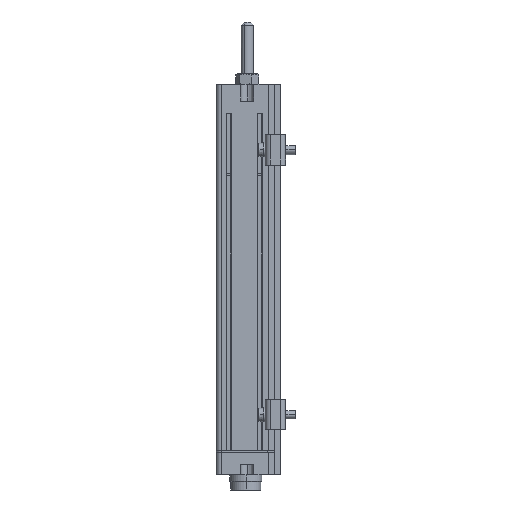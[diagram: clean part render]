
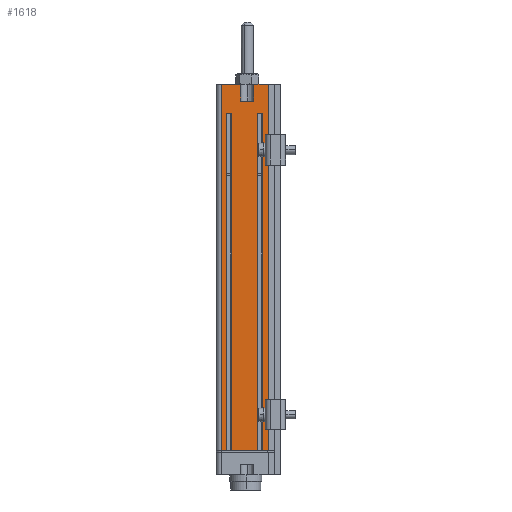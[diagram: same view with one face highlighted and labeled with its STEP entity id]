
A CAD part, left-side view. The second image highlights one B-rep face of the part: STEP entity #1618.
In plain terms, the highlighted planar face has unit normal (-1, 0, 0).
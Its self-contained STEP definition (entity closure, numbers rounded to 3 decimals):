
#1618=ADVANCED_FACE('',(#3468),#3469,.T.);
#3468=FACE_OUTER_BOUND('',#5637,.T.);
#3469=PLANE('',#5638);
#5637=EDGE_LOOP('',(#10354,#10355,#10356,#10357,#10358,#10359,#10360,#10361,#10362,#10363,#10364,#10365,#10366,#10367,#10368,#10369));
#5638=AXIS2_PLACEMENT_3D('',#10370,#10371,#10372);
#10354=ORIENTED_EDGE('',*,*,#14036,.F.);
#10355=ORIENTED_EDGE('',*,*,#14039,.T.);
#10356=ORIENTED_EDGE('',*,*,#14040,.T.);
#10357=ORIENTED_EDGE('',*,*,#14041,.T.);
#10358=ORIENTED_EDGE('',*,*,#14042,.F.);
#10359=ORIENTED_EDGE('',*,*,#14043,.T.);
#10360=ORIENTED_EDGE('',*,*,#14044,.T.);
#10361=ORIENTED_EDGE('',*,*,#14045,.T.);
#10362=ORIENTED_EDGE('',*,*,#14046,.F.);
#10363=ORIENTED_EDGE('',*,*,#14047,.T.);
#10364=ORIENTED_EDGE('',*,*,#14048,.T.);
#10365=ORIENTED_EDGE('',*,*,#14049,.F.);
#10366=ORIENTED_EDGE('',*,*,#14050,.F.);
#10367=ORIENTED_EDGE('',*,*,#14051,.F.);
#10368=ORIENTED_EDGE('',*,*,#14052,.T.);
#10369=ORIENTED_EDGE('',*,*,#14053,.F.);
#10370=CARTESIAN_POINT('',(0.0,27.0,-136.5));
#10371=DIRECTION('',(-1.0,0.0,0.0));
#10372=DIRECTION('',(0.0,0.0,1.0));
#14036=EDGE_CURVE('',#17167,#17169,#17170,.T.);
#14039=EDGE_CURVE('',#17167,#17173,#17174,.T.);
#14040=EDGE_CURVE('',#17173,#17175,#17176,.T.);
#14041=EDGE_CURVE('',#17175,#17177,#17178,.T.);
#14042=EDGE_CURVE('',#17179,#17177,#17180,.T.);
#14043=EDGE_CURVE('',#17179,#17181,#17182,.T.);
#14044=EDGE_CURVE('',#17181,#17183,#17184,.T.);
#14045=EDGE_CURVE('',#17183,#17185,#17186,.T.);
#14046=EDGE_CURVE('',#17187,#17185,#17188,.T.);
#14047=EDGE_CURVE('',#17187,#17189,#17190,.T.);
#14048=EDGE_CURVE('',#17189,#17191,#17192,.T.);
#14049=EDGE_CURVE('',#17193,#17191,#17194,.T.);
#14050=EDGE_CURVE('',#17195,#17193,#17196,.T.);
#14051=EDGE_CURVE('',#17197,#17195,#17198,.T.);
#14052=EDGE_CURVE('',#17197,#17199,#17200,.T.);
#14053=EDGE_CURVE('',#17169,#17199,#17201,.T.);
#17167=VERTEX_POINT('',#21732);
#17169=VERTEX_POINT('',#21734);
#17170=LINE('',#21735,#21736);
#17173=VERTEX_POINT('',#21739);
#17174=LINE('',#21740,#21741);
#17175=VERTEX_POINT('',#21742);
#17176=LINE('',#21743,#21744);
#17177=VERTEX_POINT('',#21745);
#17178=LINE('',#21746,#21747);
#17179=VERTEX_POINT('',#21748);
#17180=LINE('',#21749,#21750);
#17181=VERTEX_POINT('',#21751);
#17182=LINE('',#21752,#21753);
#17183=VERTEX_POINT('',#21754);
#17184=LINE('',#21755,#21756);
#17185=VERTEX_POINT('',#21757);
#17186=LINE('',#21758,#21759);
#17187=VERTEX_POINT('',#21760);
#17188=LINE('',#21761,#21762);
#17189=VERTEX_POINT('',#21763);
#17190=LINE('',#21764,#21765);
#17191=VERTEX_POINT('',#21766);
#17192=LINE('',#21767,#21768);
#17193=VERTEX_POINT('',#21769);
#17194=LINE('',#21770,#21771);
#17195=VERTEX_POINT('',#21772);
#17196=LINE('',#21773,#21774);
#17197=VERTEX_POINT('',#21775);
#17198=LINE('',#21776,#21777);
#17199=VERTEX_POINT('',#21778);
#17200=LINE('',#21779,#21780);
#17201=LINE('',#21781,#21782);
#21732=CARTESIAN_POINT('',(0.0,29.5,-136.5));
#21734=CARTESIAN_POINT('',(0.,29.5,45.3));
#21735=CARTESIAN_POINT('',(0.0,29.5,-136.5));
#21736=VECTOR('',#25285,181.8);
#21739=CARTESIAN_POINT('',(0.0,27.0,-136.5));
#21740=CARTESIAN_POINT('',(0.0,29.5,-136.5));
#21741=VECTOR('',#25289,2.5);
#21742=CARTESIAN_POINT('',(0.0,27.0,31.0));
#21743=CARTESIAN_POINT('',(0.0,27.0,-136.5));
#21744=VECTOR('',#25290,167.5);
#21745=CARTESIAN_POINT('',(0.0,24.4,31.0));
#21746=CARTESIAN_POINT('',(0.,27.0,31.0));
#21747=VECTOR('',#25291,2.6);
#21748=CARTESIAN_POINT('',(0.0,24.4,-136.5));
#21749=CARTESIAN_POINT('',(0.0,24.4,-136.5));
#21750=VECTOR('',#25292,167.5);
#21751=CARTESIAN_POINT('',(0.0,11.6,-136.5));
#21752=CARTESIAN_POINT('',(0.0,24.4,-136.5));
#21753=VECTOR('',#25293,12.8);
#21754=CARTESIAN_POINT('',(0.0,11.6,31.0));
#21755=CARTESIAN_POINT('',(0.0,11.6,-136.5));
#21756=VECTOR('',#25294,167.5);
#21757=CARTESIAN_POINT('',(0.0,9.,31.0));
#21758=CARTESIAN_POINT('',(0.,11.6,31.0));
#21759=VECTOR('',#25295,2.6);
#21760=CARTESIAN_POINT('',(0.0,9.0,-136.5));
#21761=CARTESIAN_POINT('',(0.0,9.0,-136.5));
#21762=VECTOR('',#25296,167.5);
#21763=CARTESIAN_POINT('',(0.0,6.0,-136.5));
#21764=CARTESIAN_POINT('',(0.0,9.0,-136.5));
#21765=VECTOR('',#25297,3.0);
#21766=CARTESIAN_POINT('',(0.,6.,45.3));
#21767=CARTESIAN_POINT('',(0.0,6.0,-136.5));
#21768=VECTOR('',#25298,181.8);
#21769=CARTESIAN_POINT('',(0.,13.25,45.3));
#21770=CARTESIAN_POINT('',(0.,13.25,45.3));
#21771=VECTOR('',#25299,7.25);
#21772=CARTESIAN_POINT('',(0.,13.25,37.0));
#21773=CARTESIAN_POINT('',(0.,13.25,37.0));
#21774=VECTOR('',#25300,8.3);
#21775=CARTESIAN_POINT('',(0.,19.75,37.0));
#21776=CARTESIAN_POINT('',(0.,19.75,37.0));
#21777=VECTOR('',#25301,6.5);
#21778=CARTESIAN_POINT('',(0.,19.75,45.3));
#21779=CARTESIAN_POINT('',(0.,19.75,37.0));
#21780=VECTOR('',#25302,8.3);
#21781=CARTESIAN_POINT('',(0.,29.5,45.3));
#21782=VECTOR('',#25303,9.75);
#25285=DIRECTION('',(0.0,0.0,1.0));
#25289=DIRECTION('',(0.0,-1.0,0.0));
#25290=DIRECTION('',(0.0,0.0,1.0));
#25291=DIRECTION('',(0.0,-1.0,0.0));
#25292=DIRECTION('',(0.0,0.0,1.0));
#25293=DIRECTION('',(0.0,-1.0,0.0));
#25294=DIRECTION('',(0.0,0.0,1.0));
#25295=DIRECTION('',(0.0,-1.0,0.0));
#25296=DIRECTION('',(0.0,0.0,1.0));
#25297=DIRECTION('',(0.0,-1.0,0.0));
#25298=DIRECTION('',(0.0,0.0,1.0));
#25299=DIRECTION('',(0.0,-1.0,0.0));
#25300=DIRECTION('',(0.0,0.0,1.0));
#25301=DIRECTION('',(0.0,-1.0,0.0));
#25302=DIRECTION('',(0.0,0.0,1.0));
#25303=DIRECTION('',(0.0,-1.0,0.0));
